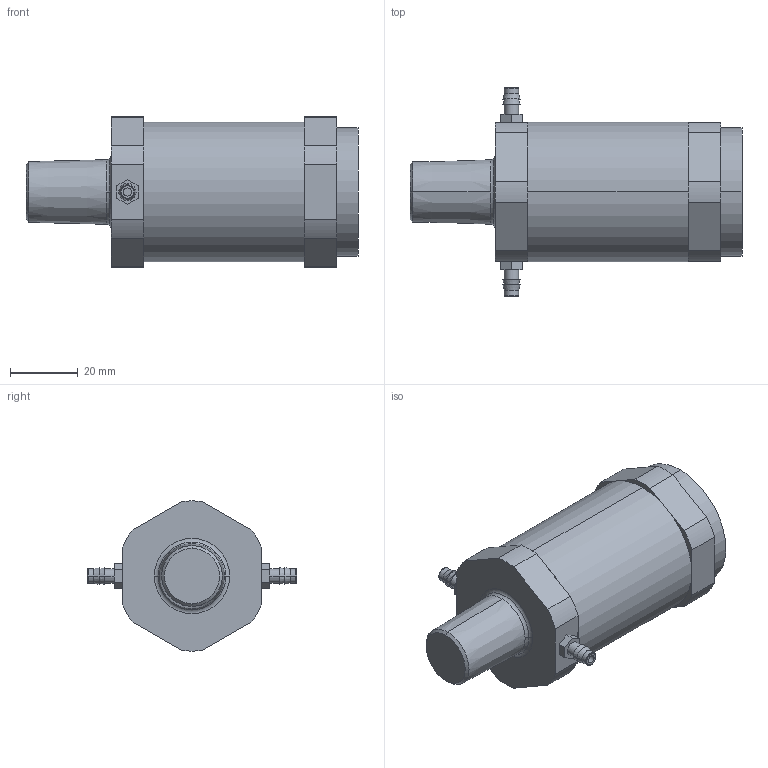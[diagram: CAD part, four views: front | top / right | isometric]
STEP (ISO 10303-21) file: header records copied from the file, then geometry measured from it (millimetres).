
FILE_DESCRIPTION((''),'2;1');
FILE_NAME('UDR4_ASM','2017-08-24T',('jennifer.elliott'),('CenterLine (Windsor) Ltd - Automation Components Division'),'PRO/ENGINEER BY PARAMETRIC TECHNOLOGY CORPORATION, 2015030','PRO/ENGINEER BY PARAMETRIC TECHNOLOGY CORPORATION, 2015030','');
FILE_SCHEMA(('AUTOMOTIVE_DESIGN { 1 0 10303 214 1 1 1 1 }'));
Length unit declared in the file: inch
Products named in the file (7): PRT0109; PRT0110; PRT0111; PRT0112; PRT0113; PRT0114; UDR4_ASM
Assembly tree (6 placements, depth 2):
  UDR4_ASM
    PRT0109
    PRT0110
    PRT0111
    PRT0112
    PRT0113
    PRT0114
Bounding box: 98.3 x 61.9 x 44.45 mm (x, y, z)
Volume: 105692.1 mm3; surface area: 22290.3 mm2
Topology: 6 solids, 6 shells, 95 faces, 237 edges, 161 vertices
Faces by surface type: plane 43, cylinder 28, cone 12, torus 12
Entity records: 3359 total; most frequent: DIRECTION 578, CARTESIAN_POINT 525, ORIENTED_EDGE 474, EDGE_CURVE 237, AXIS2_PLACEMENT_3D 233, VERTEX_POINT 161, CIRCLE 125, VECTOR 112
